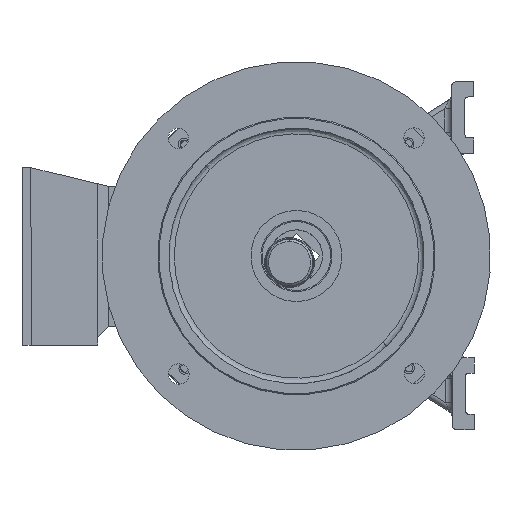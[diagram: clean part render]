
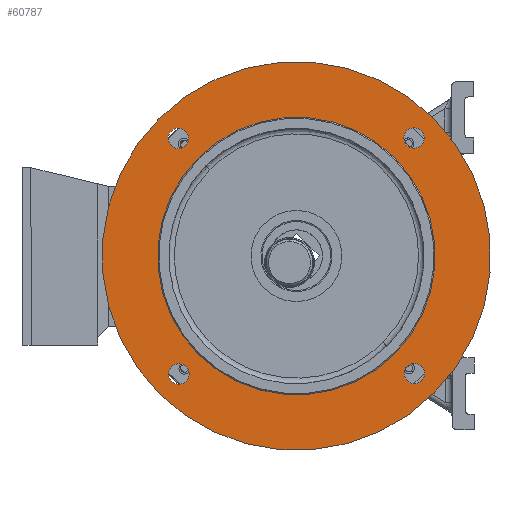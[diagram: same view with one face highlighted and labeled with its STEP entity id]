
A CAD part, left-side view. The second image highlights one B-rep face of the part: STEP entity #60787.
In plain terms, the highlighted planar face has unit normal (-1, 0, 0).
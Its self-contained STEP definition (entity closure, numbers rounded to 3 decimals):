
#725 = CARTESIAN_POINT ( 'NONE',  ( -28.733, 0., -159.25 ) ) ;
#2020 = EDGE_LOOP ( 'NONE', ( #33540, #26865 ) ) ;
#2090 = FACE_BOUND ( 'NONE', #14544, .T. ) ;
#2200 = DIRECTION ( 'NONE',  ( 0., 0., 1. ) ) ;
#2228 = VERTEX_POINT ( 'NONE', #5251 ) ;
#3444 = DIRECTION ( 'NONE',  ( -1., 0., 0. ) ) ;
#4123 = DIRECTION ( 'NONE',  ( 1., 0., 0. ) ) ;
#4164 = EDGE_CURVE ( 'NONE', #39322, #14038, #5466, .T. ) ;
#5251 = CARTESIAN_POINT ( 'NONE',  ( -28.733, 0., 125. ) ) ;
#5466 = CIRCLE ( 'NONE', #25807, 9.25 ) ;
#6373 = CARTESIAN_POINT ( 'NONE',  ( -28.733, 0., -150. ) ) ;
#6879 = DIRECTION ( 'NONE',  ( -1., 0., 0. ) ) ;
#7152 = ORIENTED_EDGE ( 'NONE', *, *, #27929, .F. ) ;
#7668 = EDGE_CURVE ( 'NONE', #2228, #12852, #31060, .T. ) ;
#7762 = DIRECTION ( 'NONE',  ( -1., 0., 0. ) ) ;
#9076 = CARTESIAN_POINT ( 'NONE',  ( -28.733, 0., -150. ) ) ;
#9492 = DIRECTION ( 'NONE',  ( 0., 0., 1. ) ) ;
#9798 = DIRECTION ( 'NONE',  ( 0., 0., 1. ) ) ;
#10272 = DIRECTION ( 'NONE',  ( 0., 0., 1. ) ) ;
#10633 = EDGE_LOOP ( 'NONE', ( #7152, #16522 ) ) ;
#10841 = CARTESIAN_POINT ( 'NONE',  ( -28.733, -150., 9.25 ) ) ;
#10883 = EDGE_LOOP ( 'NONE', ( #56184, #56862 ) ) ;
#11024 = VERTEX_POINT ( 'NONE', #36691 ) ;
#12852 = VERTEX_POINT ( 'NONE', #74648 ) ;
#13617 = CARTESIAN_POINT ( 'NONE',  ( -28.733, -150., 0. ) ) ;
#14003 = DIRECTION ( 'NONE',  ( -1., 0., 0. ) ) ;
#14038 = VERTEX_POINT ( 'NONE', #19534 ) ;
#14544 = EDGE_LOOP ( 'NONE', ( #40966, #25622 ) ) ;
#14603 = CARTESIAN_POINT ( 'NONE',  ( -28.733, 150., 0. ) ) ;
#15026 = CARTESIAN_POINT ( 'NONE',  ( -28.733, 0., 150. ) ) ;
#16522 = ORIENTED_EDGE ( 'NONE', *, *, #19091, .F. ) ;
#17616 = VERTEX_POINT ( 'NONE', #71895 ) ;
#18041 = CIRCLE ( 'NONE', #37147, 175. ) ;
#18690 = CIRCLE ( 'NONE', #45359, 9.25 ) ;
#19091 = EDGE_CURVE ( 'NONE', #38938, #17616, #62231, .T. ) ;
#19534 = CARTESIAN_POINT ( 'NONE',  ( -28.733, 0., -140.75 ) ) ;
#19841 = DIRECTION ( 'NONE',  ( 0., 0., 1. ) ) ;
#21776 = ORIENTED_EDGE ( 'NONE', *, *, #35678, .F. ) ;
#23409 = CARTESIAN_POINT ( 'NONE',  ( -28.733, -150., 0. ) ) ;
#24987 = AXIS2_PLACEMENT_3D ( 'NONE', #76449, #50619, #51004 ) ;
#25103 = AXIS2_PLACEMENT_3D ( 'NONE', #6373, #35475, #54134 ) ;
#25622 = ORIENTED_EDGE ( 'NONE', *, *, #35459, .F. ) ;
#25807 = AXIS2_PLACEMENT_3D ( 'NONE', #9076, #58014, #28191 ) ;
#26010 = CIRCLE ( 'NONE', #46333, 9.25 ) ;
#26375 = FACE_BOUND ( 'NONE', #10883, .T. ) ;
#26785 = EDGE_LOOP ( 'NONE', ( #78026, #27373 ) ) ;
#26865 = ORIENTED_EDGE ( 'NONE', *, *, #73435, .F. ) ;
#27373 = ORIENTED_EDGE ( 'NONE', *, *, #4164, .F. ) ;
#27929 = EDGE_CURVE ( 'NONE', #17616, #38938, #18041, .T. ) ;
#28191 = DIRECTION ( 'NONE',  ( 0., 0., 1. ) ) ;
#28638 = CIRCLE ( 'NONE', #75567, 9.25 ) ;
#31060 = CIRCLE ( 'NONE', #51345, 125. ) ;
#32338 = DIRECTION ( 'NONE',  ( 0., 0., 1. ) ) ;
#33540 = ORIENTED_EDGE ( 'NONE', *, *, #38133, .F. ) ;
#33822 = AXIS2_PLACEMENT_3D ( 'NONE', #74603, #7762, #2200 ) ;
#35459 = EDGE_CURVE ( 'NONE', #12852, #2228, #66804, .T. ) ;
#35475 = DIRECTION ( 'NONE',  ( -1., 0., 0. ) ) ;
#35678 = EDGE_CURVE ( 'NONE', #54161, #11024, #49047, .T. ) ;
#36691 = CARTESIAN_POINT ( 'NONE',  ( -28.733, 150., 9.25 ) ) ;
#37147 = AXIS2_PLACEMENT_3D ( 'NONE', #69570, #40145, #9492 ) ;
#38133 = EDGE_CURVE ( 'NONE', #57340, #46523, #18690, .T. ) ;
#38399 = EDGE_CURVE ( 'NONE', #14038, #39322, #69537, .T. ) ;
#38711 = DIRECTION ( 'NONE',  ( 0., 0., 1. ) ) ;
#38712 = FACE_BOUND ( 'NONE', #2020, .T. ) ;
#38938 = VERTEX_POINT ( 'NONE', #72515 ) ;
#39110 = PLANE ( 'NONE',  #24987 ) ;
#39311 = DIRECTION ( 'NONE',  ( -1., 0., 0. ) ) ;
#39322 = VERTEX_POINT ( 'NONE', #725 ) ;
#39676 = DIRECTION ( 'NONE',  ( 0., 0., 1. ) ) ;
#39979 = AXIS2_PLACEMENT_3D ( 'NONE', #23409, #70333, #10272 ) ;
#40145 = DIRECTION ( 'NONE',  ( 1., 0., 0. ) ) ;
#40528 = CARTESIAN_POINT ( 'NONE',  ( -28.733, 0., 140.75 ) ) ;
#40966 = ORIENTED_EDGE ( 'NONE', *, *, #7668, .F. ) ;
#41023 = EDGE_CURVE ( 'NONE', #52694, #60946, #45533, .T. ) ;
#44661 = FACE_BOUND ( 'NONE', #26785, .T. ) ;
#45112 = DIRECTION ( 'NONE',  ( 0., 0., 1. ) ) ;
#45126 = CARTESIAN_POINT ( 'NONE',  ( -28.733, 0., 0. ) ) ;
#45359 = AXIS2_PLACEMENT_3D ( 'NONE', #13617, #14003, #32338 ) ;
#45533 = CIRCLE ( 'NONE', #76022, 9.25 ) ;
#46333 = AXIS2_PLACEMENT_3D ( 'NONE', #51065, #51471, #45112 ) ;
#46523 = VERTEX_POINT ( 'NONE', #57031 ) ;
#47740 = AXIS2_PLACEMENT_3D ( 'NONE', #74885, #6879, #38711 ) ;
#49047 = CIRCLE ( 'NONE', #47740, 9.25 ) ;
#50102 = CARTESIAN_POINT ( 'NONE',  ( -28.733, 150., -9.25 ) ) ;
#50619 = DIRECTION ( 'NONE',  ( 1., 0., 0. ) ) ;
#51004 = DIRECTION ( 'NONE',  ( 0., 1., 0. ) ) ;
#51065 = CARTESIAN_POINT ( 'NONE',  ( -28.733, 0., 150. ) ) ;
#51345 = AXIS2_PLACEMENT_3D ( 'NONE', #69059, #3444, #9798 ) ;
#51471 = DIRECTION ( 'NONE',  ( -1., 0., 0. ) ) ;
#52193 = CARTESIAN_POINT ( 'NONE',  ( -28.733, 0., 159.25 ) ) ;
#52694 = VERTEX_POINT ( 'NONE', #40528 ) ;
#54134 = DIRECTION ( 'NONE',  ( 0., 0., 1. ) ) ;
#54161 = VERTEX_POINT ( 'NONE', #50102 ) ;
#56184 = ORIENTED_EDGE ( 'NONE', *, *, #73613, .F. ) ;
#56862 = ORIENTED_EDGE ( 'NONE', *, *, #41023, .F. ) ;
#56979 = FACE_OUTER_BOUND ( 'NONE', #10633, .T. ) ;
#57031 = CARTESIAN_POINT ( 'NONE',  ( -28.733, -150., -9.25 ) ) ;
#57340 = VERTEX_POINT ( 'NONE', #10841 ) ;
#57958 = DIRECTION ( 'NONE',  ( -1., 0., 0. ) ) ;
#58014 = DIRECTION ( 'NONE',  ( -1., 0., 0. ) ) ;
#60787 = ADVANCED_FACE ( 'NONE', ( #2090, #26375, #69295, #38712, #44661, #56979 ), #39110, .F. ) ;
#60946 = VERTEX_POINT ( 'NONE', #52193 ) ;
#62231 = CIRCLE ( 'NONE', #68402, 175. ) ;
#66804 = CIRCLE ( 'NONE', #33822, 125. ) ;
#67892 = CIRCLE ( 'NONE', #39979, 9.25 ) ;
#68402 = AXIS2_PLACEMENT_3D ( 'NONE', #45126, #4123, #76922 ) ;
#69059 = CARTESIAN_POINT ( 'NONE',  ( -28.733, 0., 0. ) ) ;
#69295 = FACE_BOUND ( 'NONE', #70870, .T. ) ;
#69537 = CIRCLE ( 'NONE', #25103, 9.25 ) ;
#69570 = CARTESIAN_POINT ( 'NONE',  ( -28.733, 0., 0. ) ) ;
#70333 = DIRECTION ( 'NONE',  ( -1., 0., 0. ) ) ;
#70405 = ORIENTED_EDGE ( 'NONE', *, *, #78519, .F. ) ;
#70870 = EDGE_LOOP ( 'NONE', ( #70405, #21776 ) ) ;
#71895 = CARTESIAN_POINT ( 'NONE',  ( -28.733, 0., 175. ) ) ;
#72515 = CARTESIAN_POINT ( 'NONE',  ( -28.733, 0., -175. ) ) ;
#73435 = EDGE_CURVE ( 'NONE', #46523, #57340, #67892, .T. ) ;
#73613 = EDGE_CURVE ( 'NONE', #60946, #52694, #26010, .T. ) ;
#74603 = CARTESIAN_POINT ( 'NONE',  ( -28.733, 0., 0. ) ) ;
#74648 = CARTESIAN_POINT ( 'NONE',  ( -28.733, 0., -125. ) ) ;
#74885 = CARTESIAN_POINT ( 'NONE',  ( -28.733, 150., 0. ) ) ;
#75567 = AXIS2_PLACEMENT_3D ( 'NONE', #14603, #57958, #39676 ) ;
#76022 = AXIS2_PLACEMENT_3D ( 'NONE', #15026, #39311, #19841 ) ;
#76449 = CARTESIAN_POINT ( 'NONE',  ( -28.733, 125., 0. ) ) ;
#76922 = DIRECTION ( 'NONE',  ( 0., 0., 1. ) ) ;
#78026 = ORIENTED_EDGE ( 'NONE', *, *, #38399, .F. ) ;
#78519 = EDGE_CURVE ( 'NONE', #11024, #54161, #28638, .T. ) ;
